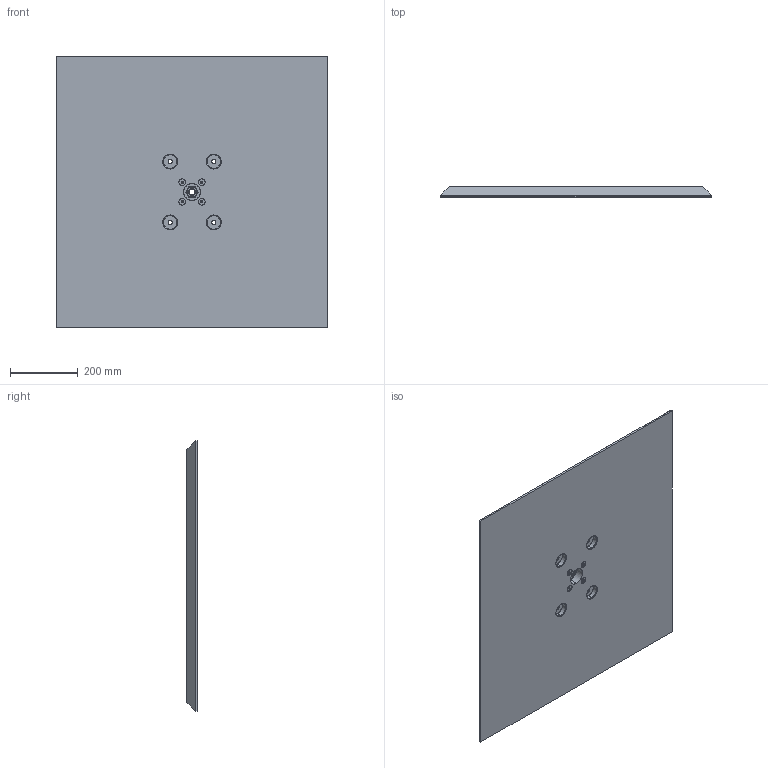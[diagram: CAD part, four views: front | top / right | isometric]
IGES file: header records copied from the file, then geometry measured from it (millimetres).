
Start section: SolidWorks IGES file using analytic representation for surfaces
Global section: file name: C:\Documents and Settings\Administrator\My Documents\Michl\SolidWorks\3d_Dateien_Homepage\Neue-Produkte\SEEBURG_Baseplate_XL.IGS; native system: SolidWorks 2009; preprocessor: SolidWorks 2009; author: Administrator; date: 140404.092117; units: millimetre
Bounding box: 800 x 30 x 800 mm (x, y, z)
Surface area: 1361940.9 mm2 (no closed solid volume)
Topology: 0 solids, 0 shells, 758 faces, 5912 edges, 5904 vertices
Faces by surface type: revolution 646, bspline 112
